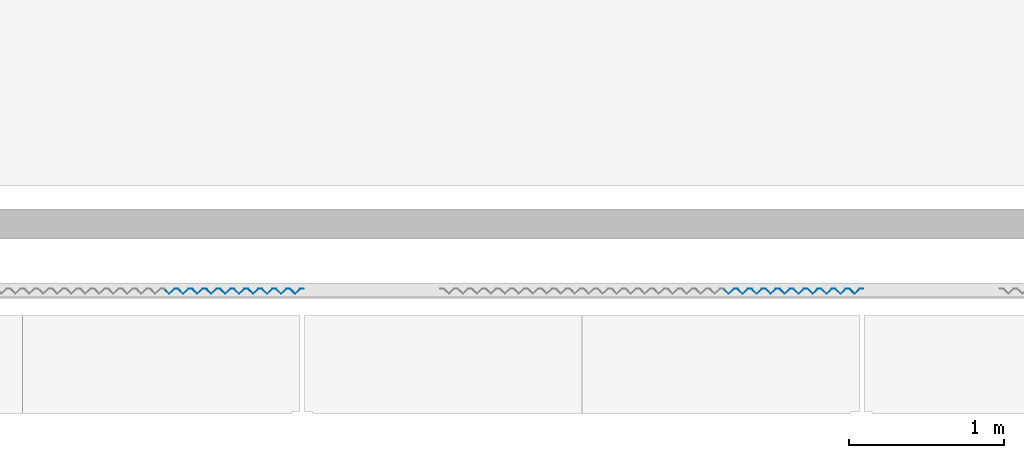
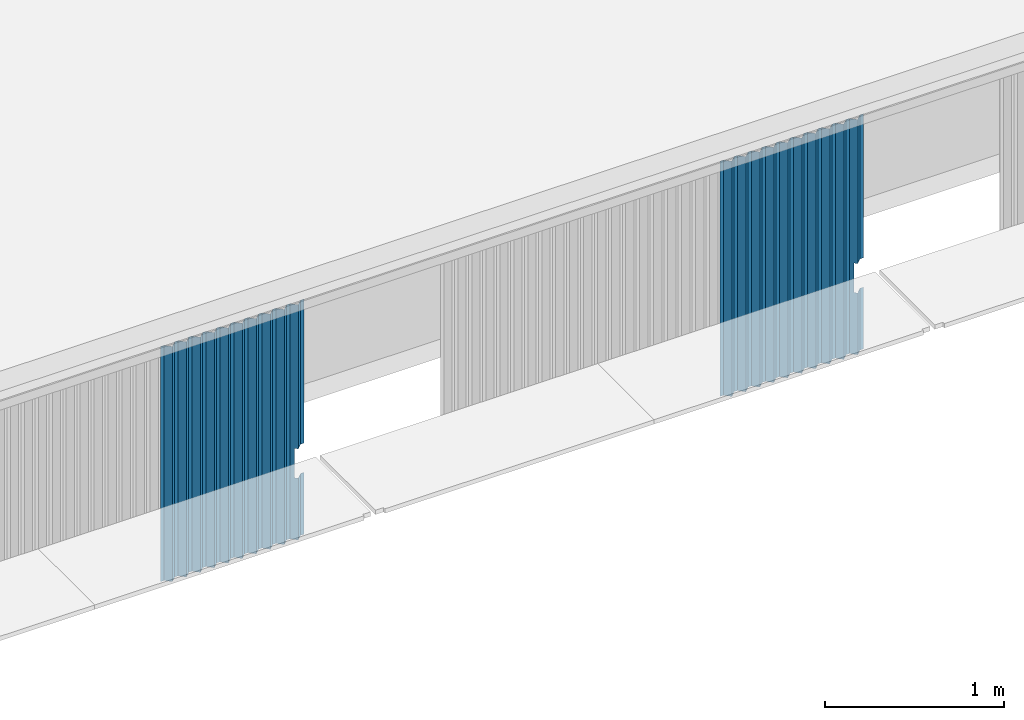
# One storey, part 21 of 37: 2 walls.
"""IFC4X3_ADD2 building model written with IfcOpenShell, lengths in millimetres."""

from ifc_helpers import new_model, si_unit, direction, frame, origin_with_axes, place, context, subcontext, project, spatial, polygons, element, save


model = new_model("IFC4X3_ADD2")

# Units and contexts
model_context = context("Model", 3, precision=1e-05, world=origin_with_axes(), true_north=direction((0.0, 1.0)))
body_context = subcontext(model_context, "Body", "Model", "MODEL_VIEW")
ifc_project = project(units=[si_unit("LENGTHUNIT", "METRE", prefix="MILLI"), si_unit("AREAUNIT", "SQUARE_METRE"), si_unit("VOLUMEUNIT", "CUBIC_METRE"), si_unit("PLANEANGLEUNIT", "RADIAN"), si_unit("TIMEUNIT", "SECOND"), si_unit("MASSUNIT", "GRAM")], contexts=[model_context])

# Site, building, storey
site_placement = place(None, origin_with_axes())
site = spatial("IfcSite", under=ifc_project, at=site_placement, Name="Site", CompositionType="ELEMENT")
building_placement = place(site_placement, origin_with_axes())
building = spatial("IfcBuilding", under=site, at=building_placement, Name="IFC Building Story")
storey_placement = place(building_placement, frame((0.0, 0.0, 14400.0), z_axis=(0.0, 0.0, 1.0), x_axis=(1.0, 0.0, 0.0)))
storey = spatial("IfcBuildingStorey", under=building, at=storey_placement, Name="040", Elevation=14400.0)

# Walls
wall_1_placement = place(storey_placement, frame((0.0, 0.0, -14400.0), z_axis=(0.0, 0.0, 1.0), x_axis=(1.0, 0.0, 0.0)))
element("IfcWall", 1, at=wall_1_placement, inside=storey, Name="BB_07.10_Gevelbekleding_PuntProfiel, 900 mm, console rechts_GMO:900 x 1600 mm", ObjectType="BB_07.10_Gevelbekleding_PuntProfiel, 900 mm, console rechts_GMO:900 x 1600 mm", PredefinedType="NOTDEFINED", context=body_context, shape_type="Tessellation", body=[
    polygons([(-29160.00000000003, -434.9999999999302, 14060.0), (-29160.00000000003, -433.5857864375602, 14060.0), (-29144.99999999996, -448.585786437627, 14060.0), (-29111.41421356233, -414.9999999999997, 14060.0), (-29088.58578643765, -414.9999999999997, 14060.0), (-29089.00000000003, -415.9999999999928, 14060.0), (-29110.99999999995, -415.9999999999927, 14060.0), (-29144.99999999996, -449.9999999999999, 14060.0), (-29160.00000000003, -434.9999999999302, 13860.0), (-29160.00000000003, -433.5857864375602, 13860.0), (-29144.99999999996, -449.9999999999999, 13860.0), (-29110.99999999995, -415.9999999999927, 13860.0), (-29089.00000000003, -415.9999999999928, 13860.0), (-29088.58578643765, -414.9999999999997, 13860.0), (-29111.41421356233, -414.9999999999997, 13860.0), (-29144.99999999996, -448.585786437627, 13860.0), (-29921.00000000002, -415.9999999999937, 15040.0), (-29899.00000000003, -415.9999999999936, 15040.0), (-29865.00000000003, -449.9999999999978, 15040.0), (-29831.00000000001, -415.9999999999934, 15040.0), (-29809.00000000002, -415.9999999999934, 15040.0), (-29775.00000000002, -449.9999999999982, 15040.0), (-29741.00000000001, -415.9999999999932, 15040.0), (-29719.00000000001, -415.9999999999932, 15040.0), (-29685.00000000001, -449.9999999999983, 15040.0), (-29651.0, -415.9999999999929, 15040.0), (-29629.0, -415.9999999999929, 15040.0), (-29595.0, -449.9999999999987, 15040.0), (-29560.99999999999, -415.9999999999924, 15040.0), (-29538.99999999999, -415.9999999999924, 15040.0), (-29504.99999999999, -449.9999999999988, 15040.0), (-29470.99999999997, -415.9999999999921, 15040.0), (-29448.99999999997, -415.9999999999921, 15040.0), (-29414.99999999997, -449.9999999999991, 15040.0), (-29380.99999999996, -415.9999999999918, 15040.0), (-29358.99999999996, -415.9999999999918, 15040.0), (-29324.99999999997, -449.9999999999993, 15040.0), (-29290.99999999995, -415.9999999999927, 15040.0), (-29268.99999999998, -415.9999999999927, 15040.0), (-29234.99999999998, -449.9999999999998, 15040.0), (-29200.99999999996, -415.9999999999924, 15040.0), (-29178.99999999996, -415.9999999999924, 15040.0), (-29144.99999999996, -449.9999999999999, 15040.0), (-29110.99999999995, -415.9999999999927, 15040.0), (-29089.00000000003, -415.9999999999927, 15040.0), (-29088.58578643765, -414.9999999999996, 15040.0), (-29111.41421356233, -414.9999999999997, 15040.0), (-29144.99999999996, -448.585786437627, 15040.0), (-29178.58578643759, -414.9999999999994, 15040.0), (-29201.41421356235, -414.9999999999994, 15040.0), (-29234.99999999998, -448.5857864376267, 15040.0), (-29268.5857864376, -414.9999999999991, 15040.0), (-29291.41421356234, -414.9999999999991, 15040.0), (-29324.99999999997, -448.5857864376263, 15040.0), (-29358.58578643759, -414.9999999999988, 15040.0), (-29381.41421356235, -414.9999999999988, 15040.0), (-29414.99999999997, -448.5857864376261, 15040.0), (-29448.5857864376, -414.9999999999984, 15040.0), (-29471.41421356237, -414.9999999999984, 15040.0), (-29504.99999999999, -448.5857864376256, 15040.0), (-29538.58578643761, -414.9999999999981, 15040.0), (-29561.41421356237, -414.9999999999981, 15040.0), (-29595.0, -448.5857864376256, 15040.0), (-29628.58578643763, -414.999999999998, 15040.0), (-29651.41421356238, -414.999999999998, 15040.0), (-29685.00000000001, -448.5857864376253, 15040.0), (-29718.58578643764, -414.9999999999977, 15040.0), (-29741.41421356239, -414.9999999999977, 15040.0), (-29775.00000000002, -448.5857864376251, 15040.0), (-29808.58578643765, -414.9999999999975, 15040.0), (-29831.4142135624, -414.9999999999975, 15040.0), (-29865.00000000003, -448.5857864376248, 15040.0), (-29898.58578643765, -414.9999999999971, 15040.0), (-29921.4142135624, -414.9999999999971, 15040.0), (-29955.00000000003, -448.5857864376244, 15040.0), (-29988.58578643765, -414.9999999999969, 15040.0), (-30011.4142135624, -414.9999999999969, 15040.0), (-30011.00000000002, -415.9999999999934, 15040.0), (-29989.00000000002, -415.9999999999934, 15040.0), (-29955.00000000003, -449.9999999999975, 15040.0), (-29921.00000000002, -415.9999999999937, 13440.0), (-29955.00000000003, -449.9999999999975, 13440.0), (-29989.00000000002, -415.9999999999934, 13440.0), (-30011.00000000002, -415.9999999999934, 13440.0), (-30011.4142135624, -414.9999999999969, 13440.0), (-29988.58578643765, -414.9999999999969, 13440.0), (-29955.00000000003, -448.5857864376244, 13440.0), (-29921.4142135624, -414.9999999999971, 13440.0), (-29898.58578643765, -414.9999999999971, 13440.0), (-29865.00000000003, -448.5857864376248, 13440.0), (-29831.4142135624, -414.9999999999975, 13440.0), (-29808.58578643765, -414.9999999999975, 13440.0), (-29775.00000000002, -448.5857864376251, 13440.0), (-29741.41421356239, -414.9999999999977, 13440.0), (-29718.58578643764, -414.9999999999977, 13440.0), (-29685.00000000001, -448.5857864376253, 13440.0), (-29651.41421356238, -414.999999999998, 13440.0), (-29628.58578643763, -414.999999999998, 13440.0), (-29595.0, -448.5857864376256, 13440.0), (-29561.41421356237, -414.9999999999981, 13440.0), (-29538.58578643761, -414.9999999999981, 13440.0), (-29504.99999999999, -448.5857864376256, 13440.0), (-29471.41421356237, -414.9999999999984, 13440.0), (-29448.5857864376, -414.9999999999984, 13440.0), (-29414.99999999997, -448.5857864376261, 13440.0), (-29381.41421356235, -414.9999999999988, 13440.0), (-29358.58578643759, -414.9999999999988, 13440.0), (-29324.99999999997, -448.5857864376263, 13440.0), (-29291.41421356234, -414.9999999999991, 13440.0), (-29268.5857864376, -414.9999999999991, 13440.0), (-29234.99999999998, -448.5857864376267, 13440.0), (-29201.41421356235, -414.9999999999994, 13440.0), (-29178.58578643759, -414.9999999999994, 13440.0), (-29144.99999999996, -448.585786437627, 13440.0), (-29111.41421356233, -414.9999999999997, 13440.0), (-29088.58578643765, -414.9999999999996, 13440.0), (-29089.00000000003, -415.9999999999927, 13440.0), (-29110.99999999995, -415.9999999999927, 13440.0), (-29144.99999999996, -449.9999999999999, 13440.0), (-29178.99999999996, -415.9999999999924, 13440.0), (-29200.99999999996, -415.9999999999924, 13440.0), (-29234.99999999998, -449.9999999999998, 13440.0), (-29268.99999999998, -415.9999999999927, 13440.0), (-29290.99999999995, -415.9999999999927, 13440.0), (-29324.99999999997, -449.9999999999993, 13440.0), (-29358.99999999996, -415.9999999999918, 13440.0), (-29380.99999999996, -415.9999999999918, 13440.0), (-29414.99999999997, -449.9999999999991, 13440.0), (-29448.99999999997, -415.9999999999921, 13440.0), (-29470.99999999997, -415.9999999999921, 13440.0), (-29504.99999999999, -449.9999999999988, 13440.0), (-29538.99999999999, -415.9999999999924, 13440.0), (-29560.99999999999, -415.9999999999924, 13440.0), (-29595.0, -449.9999999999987, 13440.0), (-29629.0, -415.9999999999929, 13440.0), (-29651.0, -415.9999999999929, 13440.0), (-29685.00000000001, -449.9999999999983, 13440.0), (-29719.00000000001, -415.9999999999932, 13440.0), (-29741.00000000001, -415.9999999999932, 13440.0), (-29775.00000000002, -449.9999999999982, 13440.0), (-29809.00000000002, -415.9999999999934, 13440.0), (-29831.00000000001, -415.9999999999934, 13440.0), (-29865.00000000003, -449.9999999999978, 13440.0), (-29899.00000000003, -415.9999999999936, 13440.0)], [[[7, 8, 3]], [[7, 3, 4]], [[4, 5, 6]], [[4, 6, 7]], [[8, 1, 2]], [[8, 2, 3]], [[2, 1, 9, 10]], [[12, 13, 14]], [[12, 14, 15]], [[16, 10, 9]], [[16, 9, 11]], [[11, 12, 15]], [[11, 15, 16]], [[44, 45, 46]], [[44, 46, 47]], [[48, 49, 42]], [[48, 42, 43]], [[43, 44, 47]], [[43, 47, 48]], [[49, 50, 41]], [[49, 41, 42]], [[51, 52, 39]], [[51, 39, 40]], [[40, 41, 50]], [[40, 50, 51]], [[52, 53, 38]], [[52, 38, 39]], [[54, 55, 36]], [[54, 36, 37]], [[37, 38, 53]], [[37, 53, 54]], [[55, 56, 35]], [[55, 35, 36]], [[57, 58, 33]], [[57, 33, 34]], [[34, 35, 56]], [[34, 56, 57]], [[58, 59, 32]], [[58, 32, 33]], [[60, 61, 30]], [[60, 30, 31]], [[31, 32, 59]], [[31, 59, 60]], [[61, 62, 29]], [[61, 29, 30]], [[63, 64, 27]], [[63, 27, 28]], [[28, 29, 62]], [[28, 62, 63]], [[64, 65, 26]], [[64, 26, 27]], [[66, 67, 24]], [[66, 24, 25]], [[25, 26, 65]], [[25, 65, 66]], [[67, 68, 23]], [[67, 23, 24]], [[69, 70, 21]], [[69, 21, 22]], [[22, 23, 68]], [[22, 68, 69]], [[70, 71, 20]], [[70, 20, 21]], [[72, 73, 18]], [[72, 18, 19]], [[19, 20, 71]], [[19, 71, 72]], [[73, 74, 17]], [[73, 17, 18]], [[79, 80, 75]], [[79, 75, 76]], [[76, 77, 78]], [[76, 78, 79]], [[80, 17, 74]], [[80, 74, 75]], [[83, 84, 85]], [[83, 85, 86]], [[87, 88, 81]], [[87, 81, 82]], [[82, 83, 86]], [[82, 86, 87]], [[118, 119, 114]], [[118, 114, 115]], [[115, 116, 117]], [[115, 117, 118]], [[121, 122, 111]], [[121, 111, 112]], [[112, 113, 120]], [[112, 120, 121]], [[113, 114, 119]], [[113, 119, 120]], [[124, 125, 108]], [[124, 108, 109]], [[109, 110, 123]], [[109, 123, 124]], [[110, 111, 122]], [[110, 122, 123]], [[127, 128, 105]], [[127, 105, 106]], [[106, 107, 126]], [[106, 126, 127]], [[107, 108, 125]], [[107, 125, 126]], [[130, 131, 102]], [[130, 102, 103]], [[103, 104, 129]], [[103, 129, 130]], [[104, 105, 128]], [[104, 128, 129]], [[133, 134, 99]], [[133, 99, 100]], [[100, 101, 132]], [[100, 132, 133]], [[101, 102, 131]], [[101, 131, 132]], [[136, 137, 96]], [[136, 96, 97]], [[97, 98, 135]], [[97, 135, 136]], [[98, 99, 134]], [[98, 134, 135]], [[139, 140, 93]], [[139, 93, 94]], [[94, 95, 138]], [[94, 138, 139]], [[95, 96, 137]], [[95, 137, 138]], [[142, 143, 90]], [[142, 90, 91]], [[91, 92, 141]], [[91, 141, 142]], [[92, 93, 140]], [[92, 140, 141]], [[144, 81, 88]], [[144, 88, 89]], [[89, 90, 143]], [[89, 143, 144]], [[18, 17, 81, 144]], [[19, 18, 144, 143]], [[20, 19, 143, 142]], [[21, 20, 142, 141]], [[22, 21, 141, 140]], [[23, 22, 140, 139]], [[24, 23, 139, 138]], [[25, 24, 138, 137]], [[26, 25, 137, 136]], [[27, 26, 136, 135]], [[28, 27, 135, 134]], [[29, 28, 134, 133]], [[30, 29, 133, 132]], [[31, 30, 132, 131]], [[32, 31, 131, 130]], [[33, 32, 130, 129]], [[34, 33, 129, 128]], [[35, 34, 128, 127]], [[36, 35, 127, 126]], [[37, 36, 126, 125]], [[38, 37, 125, 124]], [[54, 53, 109, 108]], [[55, 54, 108, 107]], [[56, 55, 107, 106]], [[57, 56, 106, 105]], [[58, 57, 105, 104]], [[59, 58, 104, 103]], [[60, 59, 103, 102]], [[61, 60, 102, 101]], [[62, 61, 101, 100]], [[63, 62, 100, 99]], [[64, 63, 99, 98]], [[65, 64, 98, 97]], [[66, 65, 97, 96]], [[67, 66, 96, 95]], [[68, 67, 95, 94]], [[69, 68, 94, 93]], [[70, 69, 93, 92]], [[71, 70, 92, 91]], [[72, 71, 91, 90]], [[73, 72, 90, 89]], [[74, 73, 89, 88]], [[80, 79, 83, 82]], [[17, 80, 82, 81]], [[39, 38, 124, 123]], [[40, 39, 123, 122]], [[41, 40, 122, 121]], [[42, 41, 121, 120]], [[1, 8, 43]], [[1, 43, 42]], [[42, 9, 1]], [[42, 120, 9]], [[120, 119, 11]], [[120, 11, 9]], [[44, 43, 8, 7]], [[45, 44, 7, 6]], [[47, 46, 5, 4]], [[48, 47, 4, 3]], [[10, 16, 114]], [[10, 114, 113]], [[113, 2, 10]], [[2, 113, 49]], [[49, 48, 2]], [[48, 3, 2]], [[50, 49, 113, 112]], [[51, 50, 112, 111]], [[52, 51, 111, 110]], [[53, 52, 110, 109]], [[75, 74, 88, 87]], [[76, 75, 87, 86]], [[46, 45, 6, 5]], [[77, 76, 86, 85]], [[78, 77, 85, 84]], [[79, 78, 84, 83]], [[117, 116, 14, 13]], [[115, 114, 16, 15]], [[116, 115, 15, 14]], [[118, 117, 13, 12]], [[119, 118, 12, 11]]]),
])
wall_2_placement = place(storey_placement, frame((0.0, 0.0, -14400.0), z_axis=(0.0, 0.0, 1.0), x_axis=(1.0, 0.0, 0.0)))
element("IfcWall", 2, at=wall_2_placement, inside=storey, Name="BB_07.10_Gevelbekleding_PuntProfiel, 900 mm, console rechts_GMO:900 x 1600 mm", ObjectType="BB_07.10_Gevelbekleding_PuntProfiel, 900 mm, console rechts_GMO:900 x 1600 mm", PredefinedType="NOTDEFINED", context=body_context, shape_type="Tessellation", body=[
    polygons([(-25560.00000000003, -434.9999999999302, 14060.0), (-25560.00000000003, -433.5857864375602, 14060.0), (-25544.99999999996, -448.585786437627, 14060.0), (-25511.41421356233, -414.9999999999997, 14060.0), (-25488.58578643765, -414.9999999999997, 14060.0), (-25489.00000000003, -415.9999999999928, 14060.0), (-25510.99999999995, -415.9999999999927, 14060.0), (-25544.99999999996, -449.9999999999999, 14060.0), (-25560.00000000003, -434.9999999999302, 13860.0), (-25560.00000000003, -433.5857864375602, 13860.0), (-25544.99999999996, -449.9999999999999, 13860.0), (-25510.99999999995, -415.9999999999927, 13860.0), (-25489.00000000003, -415.9999999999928, 13860.0), (-25488.58578643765, -414.9999999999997, 13860.0), (-25511.41421356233, -414.9999999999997, 13860.0), (-25544.99999999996, -448.585786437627, 13860.0), (-26321.00000000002, -415.9999999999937, 15040.0), (-26299.00000000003, -415.9999999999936, 15040.0), (-26265.00000000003, -449.9999999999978, 15040.0), (-26231.00000000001, -415.9999999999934, 15040.0), (-26209.00000000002, -415.9999999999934, 15040.0), (-26175.00000000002, -449.9999999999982, 15040.0), (-26141.00000000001, -415.9999999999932, 15040.0), (-26119.00000000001, -415.9999999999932, 15040.0), (-26085.0, -449.9999999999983, 15040.0), (-26051.0, -415.9999999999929, 15040.0), (-26029.0, -415.9999999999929, 15040.0), (-25995.0, -449.9999999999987, 15040.0), (-25960.99999999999, -415.9999999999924, 15040.0), (-25938.99999999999, -415.9999999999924, 15040.0), (-25904.99999999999, -449.9999999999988, 15040.0), (-25870.99999999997, -415.9999999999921, 15040.0), (-25848.99999999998, -415.9999999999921, 15040.0), (-25814.99999999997, -449.9999999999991, 15040.0), (-25780.99999999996, -415.9999999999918, 15040.0), (-25758.99999999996, -415.9999999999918, 15040.0), (-25724.99999999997, -449.9999999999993, 15040.0), (-25690.99999999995, -415.9999999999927, 15040.0), (-25668.99999999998, -415.9999999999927, 15040.0), (-25634.99999999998, -449.9999999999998, 15040.0), (-25600.99999999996, -415.9999999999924, 15040.0), (-25578.99999999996, -415.9999999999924, 15040.0), (-25544.99999999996, -449.9999999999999, 15040.0), (-25510.99999999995, -415.9999999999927, 15040.0), (-25489.00000000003, -415.9999999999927, 15040.0), (-25488.58578643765, -414.9999999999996, 15040.0), (-25511.41421356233, -414.9999999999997, 15040.0), (-25544.99999999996, -448.585786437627, 15040.0), (-25578.58578643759, -414.9999999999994, 15040.0), (-25601.41421356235, -414.9999999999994, 15040.0), (-25634.99999999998, -448.5857864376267, 15040.0), (-25668.5857864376, -414.9999999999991, 15040.0), (-25691.41421356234, -414.9999999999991, 15040.0), (-25724.99999999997, -448.5857864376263, 15040.0), (-25758.58578643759, -414.9999999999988, 15040.0), (-25781.41421356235, -414.9999999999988, 15040.0), (-25814.99999999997, -448.5857864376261, 15040.0), (-25848.5857864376, -414.9999999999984, 15040.0), (-25871.41421356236, -414.9999999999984, 15040.0), (-25904.99999999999, -448.5857864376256, 15040.0), (-25938.58578643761, -414.9999999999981, 15040.0), (-25961.41421356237, -414.9999999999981, 15040.0), (-25995.0, -448.5857864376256, 15040.0), (-26028.58578643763, -414.999999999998, 15040.0), (-26051.41421356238, -414.999999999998, 15040.0), (-26085.0, -448.5857864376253, 15040.0), (-26118.58578643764, -414.9999999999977, 15040.0), (-26141.41421356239, -414.9999999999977, 15040.0), (-26175.00000000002, -448.5857864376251, 15040.0), (-26208.58578643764, -414.9999999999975, 15040.0), (-26231.4142135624, -414.9999999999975, 15040.0), (-26265.00000000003, -448.5857864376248, 15040.0), (-26298.58578643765, -414.9999999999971, 15040.0), (-26321.41421356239, -414.9999999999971, 15040.0), (-26355.00000000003, -448.5857864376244, 15040.0), (-26388.58578643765, -414.9999999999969, 15040.0), (-26411.4142135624, -414.9999999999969, 15040.0), (-26411.00000000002, -415.9999999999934, 15040.0), (-26389.00000000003, -415.9999999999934, 15040.0), (-26355.00000000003, -449.9999999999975, 15040.0), (-26321.00000000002, -415.9999999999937, 13440.0), (-26355.00000000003, -449.9999999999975, 13440.0), (-26389.00000000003, -415.9999999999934, 13440.0), (-26411.00000000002, -415.9999999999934, 13440.0), (-26411.4142135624, -414.9999999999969, 13440.0), (-26388.58578643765, -414.9999999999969, 13440.0), (-26355.00000000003, -448.5857864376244, 13440.0), (-26321.41421356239, -414.9999999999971, 13440.0), (-26298.58578643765, -414.9999999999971, 13440.0), (-26265.00000000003, -448.5857864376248, 13440.0), (-26231.4142135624, -414.9999999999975, 13440.0), (-26208.58578643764, -414.9999999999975, 13440.0), (-26175.00000000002, -448.5857864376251, 13440.0), (-26141.41421356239, -414.9999999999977, 13440.0), (-26118.58578643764, -414.9999999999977, 13440.0), (-26085.0, -448.5857864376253, 13440.0), (-26051.41421356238, -414.999999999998, 13440.0), (-26028.58578643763, -414.999999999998, 13440.0), (-25995.0, -448.5857864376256, 13440.0), (-25961.41421356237, -414.9999999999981, 13440.0), (-25938.58578643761, -414.9999999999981, 13440.0), (-25904.99999999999, -448.5857864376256, 13440.0), (-25871.41421356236, -414.9999999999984, 13440.0), (-25848.5857864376, -414.9999999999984, 13440.0), (-25814.99999999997, -448.5857864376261, 13440.0), (-25781.41421356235, -414.9999999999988, 13440.0), (-25758.58578643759, -414.9999999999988, 13440.0), (-25724.99999999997, -448.5857864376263, 13440.0), (-25691.41421356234, -414.9999999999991, 13440.0), (-25668.5857864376, -414.9999999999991, 13440.0), (-25634.99999999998, -448.5857864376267, 13440.0), (-25601.41421356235, -414.9999999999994, 13440.0), (-25578.58578643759, -414.9999999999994, 13440.0), (-25544.99999999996, -448.585786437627, 13440.0), (-25511.41421356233, -414.9999999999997, 13440.0), (-25488.58578643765, -414.9999999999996, 13440.0), (-25489.00000000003, -415.9999999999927, 13440.0), (-25510.99999999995, -415.9999999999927, 13440.0), (-25544.99999999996, -449.9999999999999, 13440.0), (-25578.99999999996, -415.9999999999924, 13440.0), (-25600.99999999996, -415.9999999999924, 13440.0), (-25634.99999999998, -449.9999999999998, 13440.0), (-25668.99999999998, -415.9999999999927, 13440.0), (-25690.99999999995, -415.9999999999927, 13440.0), (-25724.99999999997, -449.9999999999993, 13440.0), (-25758.99999999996, -415.9999999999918, 13440.0), (-25780.99999999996, -415.9999999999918, 13440.0), (-25814.99999999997, -449.9999999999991, 13440.0), (-25848.99999999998, -415.9999999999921, 13440.0), (-25870.99999999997, -415.9999999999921, 13440.0), (-25904.99999999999, -449.9999999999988, 13440.0), (-25938.99999999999, -415.9999999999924, 13440.0), (-25960.99999999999, -415.9999999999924, 13440.0), (-25995.0, -449.9999999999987, 13440.0), (-26029.0, -415.9999999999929, 13440.0), (-26051.0, -415.9999999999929, 13440.0), (-26085.0, -449.9999999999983, 13440.0), (-26119.00000000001, -415.9999999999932, 13440.0), (-26141.00000000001, -415.9999999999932, 13440.0), (-26175.00000000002, -449.9999999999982, 13440.0), (-26209.00000000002, -415.9999999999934, 13440.0), (-26231.00000000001, -415.9999999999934, 13440.0), (-26265.00000000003, -449.9999999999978, 13440.0), (-26299.00000000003, -415.9999999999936, 13440.0)], [[[7, 8, 3]], [[7, 3, 4]], [[4, 5, 6]], [[4, 6, 7]], [[8, 1, 2]], [[8, 2, 3]], [[2, 1, 9, 10]], [[12, 13, 14]], [[12, 14, 15]], [[16, 10, 9]], [[16, 9, 11]], [[11, 12, 15]], [[11, 15, 16]], [[44, 45, 46]], [[44, 46, 47]], [[48, 49, 42]], [[48, 42, 43]], [[43, 44, 47]], [[43, 47, 48]], [[49, 50, 41]], [[49, 41, 42]], [[51, 52, 39]], [[51, 39, 40]], [[40, 41, 50]], [[40, 50, 51]], [[52, 53, 38]], [[52, 38, 39]], [[54, 55, 36]], [[54, 36, 37]], [[37, 38, 53]], [[37, 53, 54]], [[55, 56, 35]], [[55, 35, 36]], [[57, 58, 33]], [[57, 33, 34]], [[34, 35, 56]], [[34, 56, 57]], [[58, 59, 32]], [[58, 32, 33]], [[60, 61, 30]], [[60, 30, 31]], [[31, 32, 59]], [[31, 59, 60]], [[61, 62, 29]], [[61, 29, 30]], [[63, 64, 27]], [[63, 27, 28]], [[28, 29, 62]], [[28, 62, 63]], [[64, 65, 26]], [[64, 26, 27]], [[66, 67, 24]], [[66, 24, 25]], [[25, 26, 65]], [[25, 65, 66]], [[67, 68, 23]], [[67, 23, 24]], [[69, 70, 21]], [[69, 21, 22]], [[22, 23, 68]], [[22, 68, 69]], [[70, 71, 20]], [[70, 20, 21]], [[72, 73, 18]], [[72, 18, 19]], [[19, 20, 71]], [[19, 71, 72]], [[73, 74, 17]], [[73, 17, 18]], [[79, 80, 75]], [[79, 75, 76]], [[76, 77, 78]], [[76, 78, 79]], [[80, 17, 74]], [[80, 74, 75]], [[83, 84, 85]], [[83, 85, 86]], [[87, 88, 81]], [[87, 81, 82]], [[82, 83, 86]], [[82, 86, 87]], [[118, 119, 114]], [[118, 114, 115]], [[115, 116, 117]], [[115, 117, 118]], [[121, 122, 111]], [[121, 111, 112]], [[112, 113, 120]], [[112, 120, 121]], [[113, 114, 119]], [[113, 119, 120]], [[124, 125, 108]], [[124, 108, 109]], [[109, 110, 123]], [[109, 123, 124]], [[110, 111, 122]], [[110, 122, 123]], [[127, 128, 105]], [[127, 105, 106]], [[106, 107, 126]], [[106, 126, 127]], [[107, 108, 125]], [[107, 125, 126]], [[130, 131, 102]], [[130, 102, 103]], [[103, 104, 129]], [[103, 129, 130]], [[104, 105, 128]], [[104, 128, 129]], [[133, 134, 99]], [[133, 99, 100]], [[100, 101, 132]], [[100, 132, 133]], [[101, 102, 131]], [[101, 131, 132]], [[136, 137, 96]], [[136, 96, 97]], [[97, 98, 135]], [[97, 135, 136]], [[98, 99, 134]], [[98, 134, 135]], [[139, 140, 93]], [[139, 93, 94]], [[94, 95, 138]], [[94, 138, 139]], [[95, 96, 137]], [[95, 137, 138]], [[142, 143, 90]], [[142, 90, 91]], [[91, 92, 141]], [[91, 141, 142]], [[92, 93, 140]], [[92, 140, 141]], [[144, 81, 88]], [[144, 88, 89]], [[89, 90, 143]], [[89, 143, 144]], [[18, 17, 81, 144]], [[19, 18, 144, 143]], [[20, 19, 143, 142]], [[21, 20, 142, 141]], [[22, 21, 141, 140]], [[23, 22, 140, 139]], [[24, 23, 139, 138]], [[25, 24, 138, 137]], [[26, 25, 137, 136]], [[27, 26, 136, 135]], [[28, 27, 135, 134]], [[29, 28, 134, 133]], [[30, 29, 133, 132]], [[31, 30, 132, 131]], [[32, 31, 131, 130]], [[33, 32, 130, 129]], [[34, 33, 129, 128]], [[35, 34, 128, 127]], [[36, 35, 127, 126]], [[37, 36, 126, 125]], [[38, 37, 125, 124]], [[54, 53, 109, 108]], [[55, 54, 108, 107]], [[56, 55, 107, 106]], [[57, 56, 106, 105]], [[58, 57, 105, 104]], [[59, 58, 104, 103]], [[60, 59, 103, 102]], [[61, 60, 102, 101]], [[62, 61, 101, 100]], [[63, 62, 100, 99]], [[64, 63, 99, 98]], [[65, 64, 98, 97]], [[66, 65, 97, 96]], [[67, 66, 96, 95]], [[68, 67, 95, 94]], [[69, 68, 94, 93]], [[70, 69, 93, 92]], [[71, 70, 92, 91]], [[72, 71, 91, 90]], [[73, 72, 90, 89]], [[74, 73, 89, 88]], [[80, 79, 83, 82]], [[17, 80, 82, 81]], [[39, 38, 124, 123]], [[40, 39, 123, 122]], [[41, 40, 122, 121]], [[42, 41, 121, 120]], [[1, 8, 43]], [[1, 43, 42]], [[42, 9, 1]], [[42, 120, 9]], [[120, 119, 11]], [[120, 11, 9]], [[44, 43, 8, 7]], [[45, 44, 7, 6]], [[47, 46, 5, 4]], [[48, 47, 4, 3]], [[10, 16, 114]], [[10, 114, 113]], [[113, 2, 10]], [[2, 113, 49]], [[49, 48, 2]], [[48, 3, 2]], [[50, 49, 113, 112]], [[51, 50, 112, 111]], [[52, 51, 111, 110]], [[53, 52, 110, 109]], [[75, 74, 88, 87]], [[76, 75, 87, 86]], [[46, 45, 6, 5]], [[77, 76, 86, 85]], [[78, 77, 85, 84]], [[79, 78, 84, 83]], [[117, 116, 14, 13]], [[115, 114, 16, 15]], [[116, 115, 15, 14]], [[118, 117, 13, 12]], [[119, 118, 12, 11]]]),
])

save(model, "model.ifc")
